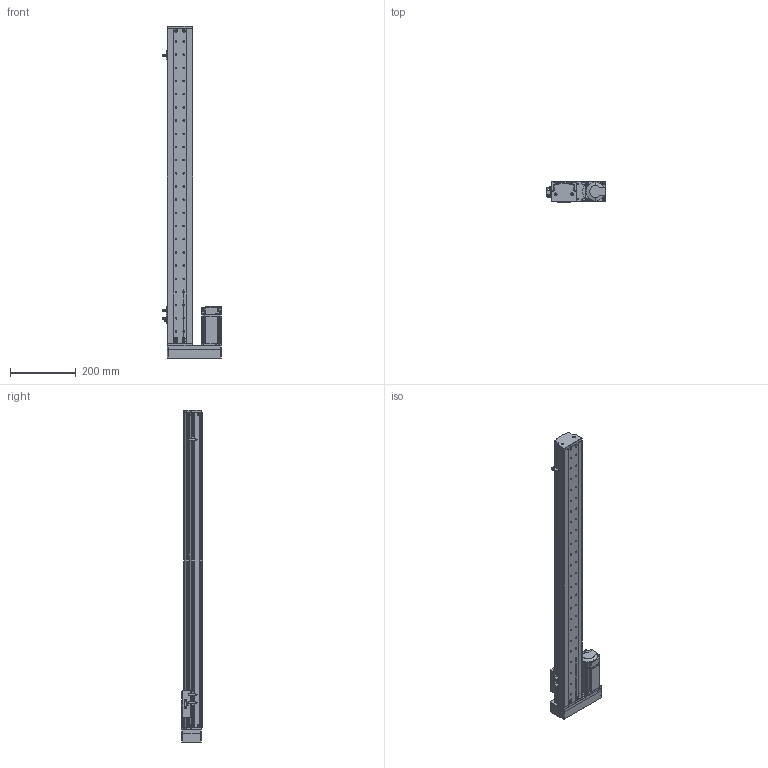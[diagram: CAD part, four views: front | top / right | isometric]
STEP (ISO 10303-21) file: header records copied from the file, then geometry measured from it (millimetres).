
FILE_DESCRIPTION (( 'STEP AP214' ), '1' );
FILE_NAME ('KSD75S-S800-ML-CM.STEP', '2019-10-18T07:05:28', ( '微软用户' ), ( '微软中国' ), 'SwSTEP 2.0', 'SolidWorks 2014', '' );
FILE_SCHEMA (( 'AUTOMOTIVE_DESIGN' ));
Length unit declared in the file: millimetre
Products named in the file (13): MHMD042G1CA_2_03; 75宽模组保护罩左右折; 75宽马达安装板连板左右折丝杆; 覜茼え100遵圉猾敕; U倰嫖萇EEㄜSX672; 綴傷啣 ; ヶ傷啣; 75裔啣-800俴最; 75遵耀郪耜啣-800俴最; 75遵賑雄釱; MGW15H賑寢800; 800俴最; KSD75S-S800-ML-CM
Assembly tree (15 placements, depth 3):
  KSD75S-S800-ML-CM
    MGW15H賑寢800
      800俴最
    75遵賑雄釱
    75遵耀郪耜啣-800俴最  x2
    75裔啣-800俴最
    ヶ傷啣
    綴傷啣 
    U倰嫖萇EEㄜSX672  x3
    覜茼え100遵圉猾敕
    75宽马达安装板连板左右折丝杆
    75宽模组保护罩左右折
    MHMD042G1CA_2_03
Bounding box: 178.7 x 63 x 1007.5 mm (x, y, z)
Volume: 1207010.7 mm3; surface area: 761754.2 mm2
Topology: 13 solids, 14 shells, 1563 faces, 4378 edges, 2861 vertices
Faces by surface type: cylinder 771, plane 645, cone 129, bspline 18
Entity records: 49998 total; most frequent: CARTESIAN_POINT 9418, DIRECTION 7604, ORIENTED_EDGE 7036, EDGE_CURVE 3589, AXIS2_PLACEMENT_3D 2826, VERTEX_POINT 2379, VECTOR 1952, LINE 1952
